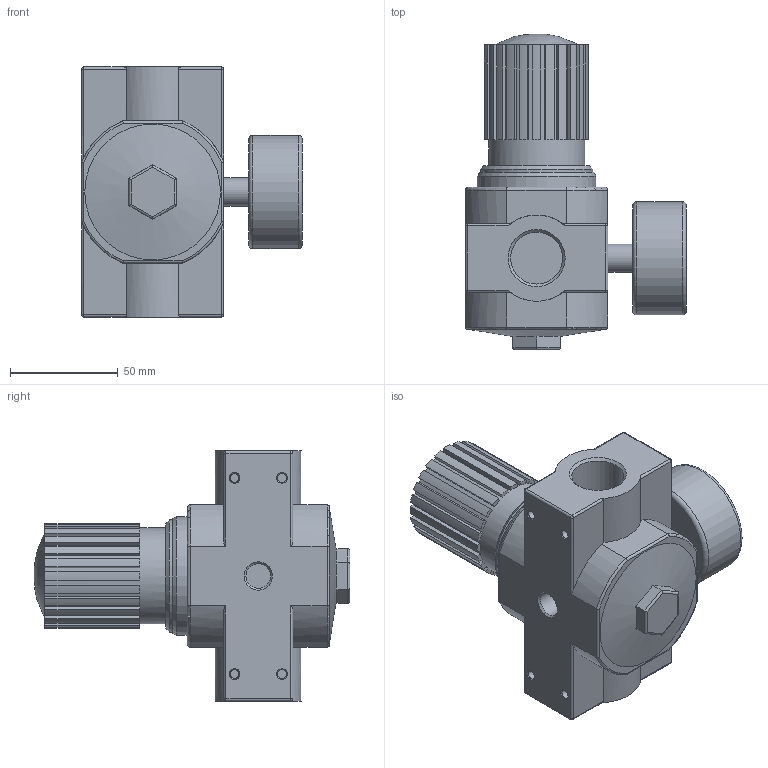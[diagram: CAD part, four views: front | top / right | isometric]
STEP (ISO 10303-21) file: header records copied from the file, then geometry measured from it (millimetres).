
FILE_DESCRIPTION(/* description */ ('STEP AP214'),/* implementation_level */ '2;1');
FILE_NAME(/* name */ '90-RC-34-xx-02.stp',/* time_stamp */ '2026-01-20T14:58:49+01:00',/* author */ ('Tschernatsch'),/* organization */ ('CADENAS'),/* preprocessor_version */ 'ST-DEVELOPER v20',/* originating_system */ 'Autodesk Inventor 2024',/* authorisation */ ' ');
FILE_SCHEMA (('AUTOMOTIVE_DESIGN { 1 0 10303 214 3 1 1 }'));
Length unit declared in the file: millimetre
Products named in the file (1): LR-G3/4-MAXI
Bounding box: 102.5 x 146.51 x 116 mm (x, y, z)
Volume: 540709.7 mm3; surface area: 61735.1 mm2
Topology: 1 solids, 2 shells, 223 faces, 572 edges, 358 vertices
Faces by surface type: plane 111, cylinder 83, torus 10, cone 10, sphere 8, bspline 1
Full cylindrical faces by diameter (mm): 4.134 x4, 11.445 x2, 13.157 x1, 24.117 x2, 44.6 x1, 52 x1, 52.5 x1, 55 x1
Entity records: 7055 total; most frequent: CARTESIAN_POINT 1551, DIRECTION 1175, ORIENTED_EDGE 1126, EDGE_CURVE 563, AXIS2_PLACEMENT_3D 427, VERTEX_POINT 358, LINE 321, VECTOR 321
